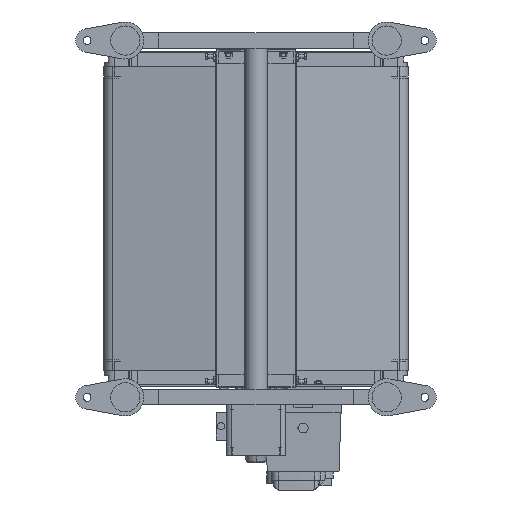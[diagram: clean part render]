
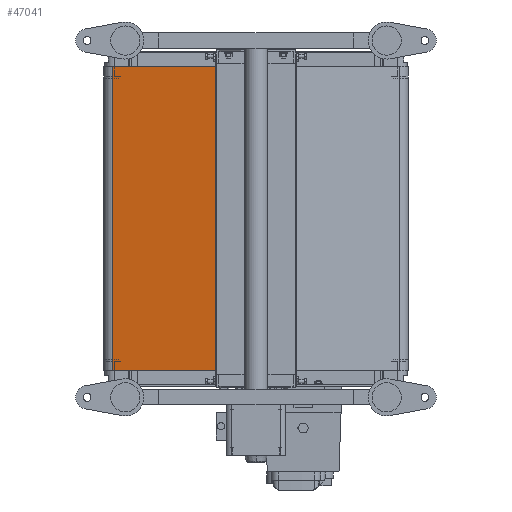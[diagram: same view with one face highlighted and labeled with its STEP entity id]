
A CAD part, front view. The second image highlights one B-rep face of the part: STEP entity #47041.
In plain terms, the highlighted planar face has unit normal (-0.176, -0.984, 0).
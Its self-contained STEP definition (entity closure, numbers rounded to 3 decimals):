
#2293 = LINE ( 'NONE', #79404, #34682 ) ;
#2932 = DIRECTION ( 'NONE',  ( 0.176, 0.984, 0. ) ) ;
#5818 = EDGE_CURVE ( 'NONE', #25660, #29971, #11890, .T. ) ;
#8188 = CARTESIAN_POINT ( 'NONE',  ( 14.409, -33.936, 250. ) ) ;
#11890 = LINE ( 'NONE', #17528, #35270 ) ;
#12786 = EDGE_LOOP ( 'NONE', ( #16680, #33494, #14475, #57134 ) ) ;
#12794 = LINE ( 'NONE', #37026, #77378 ) ;
#14475 = ORIENTED_EDGE ( 'NONE', *, *, #50418, .F. ) ;
#16680 = ORIENTED_EDGE ( 'NONE', *, *, #56895, .T. ) ;
#17076 = DIRECTION ( 'NONE',  ( 0., 0., -1. ) ) ;
#17528 = CARTESIAN_POINT ( 'NONE',  ( 14.409, -33.936, 250. ) ) ;
#17736 = CARTESIAN_POINT ( 'NONE',  ( 217.987, -70.264, 250. ) ) ;
#19224 = EDGE_CURVE ( 'NONE', #38291, #19894, #2293, .T. ) ;
#19894 = VERTEX_POINT ( 'NONE', #42108 ) ;
#20936 = DIRECTION ( 'NONE',  ( 0.984, -0.176, 0. ) ) ;
#23261 = DIRECTION ( 'NONE',  ( 0., 0., -1. ) ) ;
#25660 = VERTEX_POINT ( 'NONE', #8188 ) ;
#25708 = VECTOR ( 'NONE', #20936, 1000. ) ;
#29971 = VERTEX_POINT ( 'NONE', #72607 ) ;
#30524 = DIRECTION ( 'NONE',  ( 0.984, -0.176, 0. ) ) ;
#33494 = ORIENTED_EDGE ( 'NONE', *, *, #19224, .F. ) ;
#33569 = CARTESIAN_POINT ( 'NONE',  ( 14.409, -33.936, -250. ) ) ;
#34682 = VECTOR ( 'NONE', #17076, 1000. ) ;
#35270 = VECTOR ( 'NONE', #23261, 1000. ) ;
#35531 = LINE ( 'NONE', #33569, #25708 ) ;
#37026 = CARTESIAN_POINT ( 'NONE',  ( 14.409, -33.936, 250. ) ) ;
#38291 = VERTEX_POINT ( 'NONE', #17736 ) ;
#39847 = PLANE ( 'NONE',  #59537 ) ;
#42108 = CARTESIAN_POINT ( 'NONE',  ( 217.987, -70.264, -250. ) ) ;
#46147 = DIRECTION ( 'NONE',  ( -0.984, 0.176, 0. ) ) ;
#47041 = ADVANCED_FACE ( 'NONE', ( #56005 ), #39847, .F. ) ;
#50418 = EDGE_CURVE ( 'NONE', #25660, #38291, #12794, .T. ) ;
#56005 = FACE_OUTER_BOUND ( 'NONE', #12786, .T. ) ;
#56895 = EDGE_CURVE ( 'NONE', #29971, #19894, #35531, .T. ) ;
#57134 = ORIENTED_EDGE ( 'NONE', *, *, #5818, .T. ) ;
#59537 = AXIS2_PLACEMENT_3D ( 'NONE', #71556, #2932, #46147 ) ;
#71556 = CARTESIAN_POINT ( 'NONE',  ( 14.409, -33.936, 250. ) ) ;
#72607 = CARTESIAN_POINT ( 'NONE',  ( 14.409, -33.936, -250. ) ) ;
#77378 = VECTOR ( 'NONE', #30524, 1000. ) ;
#79404 = CARTESIAN_POINT ( 'NONE',  ( 217.987, -70.264, 250. ) ) ;
